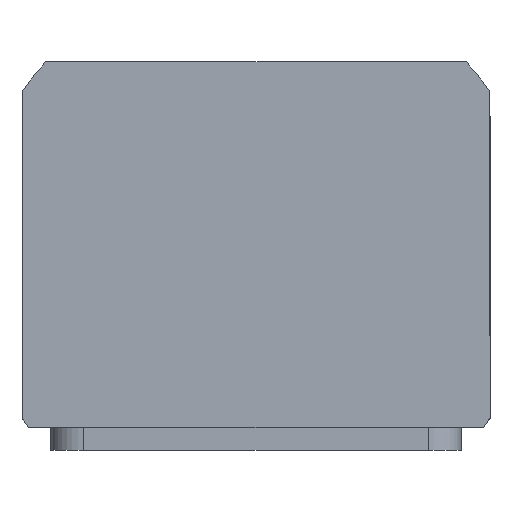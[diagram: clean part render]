
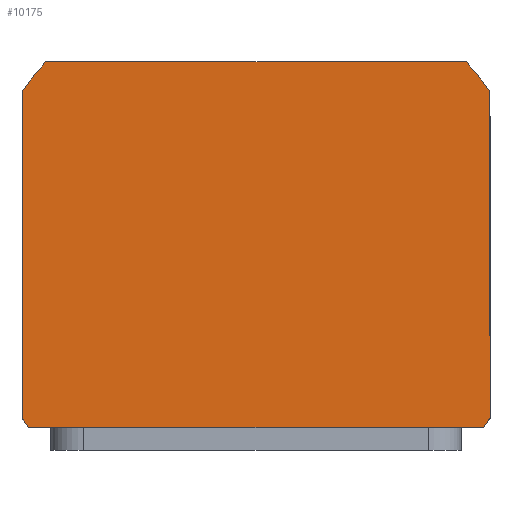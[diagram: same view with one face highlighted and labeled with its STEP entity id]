
A CAD part, top view. The second image highlights one B-rep face of the part: STEP entity #10175.
In plain terms, the highlighted planar face has unit normal (0, 0, 1) as drawn and (0, 0, -1) by its records, which use the part's own axes.
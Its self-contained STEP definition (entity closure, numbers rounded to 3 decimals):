
#501 = CIRCLE ( 'NONE', #10553, 69.5 ) ;
#770 = CIRCLE ( 'NONE', #3271, 69.5 ) ;
#986 = ORIENTED_EDGE ( 'NONE', *, *, #7964, .F. ) ;
#2131 = VECTOR ( 'NONE', #2492, 1000. ) ;
#2492 = DIRECTION ( 'NONE',  ( 1., 0., 0. ) ) ;
#2728 = CARTESIAN_POINT ( 'NONE',  ( 0., 2.508, 0. ) ) ;
#2950 = VECTOR ( 'NONE', #11099, 1000. ) ;
#3103 = VERTEX_POINT ( 'NONE', #3895 ) ;
#3154 = CARTESIAN_POINT ( 'NONE',  ( 0., 0., 0. ) ) ;
#3271 = AXIS2_PLACEMENT_3D ( 'NONE', #2728, #12559, #4146 ) ;
#3404 = CARTESIAN_POINT ( 'NONE',  ( 0., 2.508, 0. ) ) ;
#3663 = EDGE_CURVE ( 'NONE', #3103, #12084, #13330, .T. ) ;
#3895 = CARTESIAN_POINT ( 'NONE',  ( -51.19, -44.5, 0. ) ) ;
#4146 = DIRECTION ( 'NONE',  ( 1., 0., 0. ) ) ;
#4608 = EDGE_CURVE ( 'NONE', #13774, #7831, #5651, .T. ) ;
#4729 = ORIENTED_EDGE ( 'NONE', *, *, #4608, .F. ) ;
#4839 = DIRECTION ( 'NONE',  ( 1., 0., 0. ) ) ;
#5084 = AXIS2_PLACEMENT_3D ( 'NONE', #3404, #13234, #4839 ) ;
#5380 = DIRECTION ( 'NONE',  ( 0., -1., 0. ) ) ;
#5404 = DIRECTION ( 'NONE',  ( -1., 0., 0. ) ) ;
#5476 = EDGE_CURVE ( 'NONE', #7831, #16548, #770, .T. ) ;
#5651 = LINE ( 'NONE', #15176, #16430 ) ;
#5690 = CARTESIAN_POINT ( 'NONE',  ( 51.19, -44.5, 0. ) ) ;
#6025 = DIRECTION ( 'NONE',  ( 0., 0., 1. ) ) ;
#6068 = ORIENTED_EDGE ( 'NONE', *, *, #8471, .F. ) ;
#6149 = EDGE_CURVE ( 'NONE', #11795, #17946, #14164, .T. ) ;
#6680 = DIRECTION ( 'NONE',  ( 1., 0., 0. ) ) ;
#6947 = ORIENTED_EDGE ( 'NONE', *, *, #6149, .F. ) ;
#7580 = ORIENTED_EDGE ( 'NONE', *, *, #17487, .F. ) ;
#7706 = ORIENTED_EDGE ( 'NONE', *, *, #3663, .F. ) ;
#7831 = VERTEX_POINT ( 'NONE', #15652 ) ;
#7931 = CARTESIAN_POINT ( 'NONE',  ( 0., 2.508, 0. ) ) ;
#7964 = EDGE_CURVE ( 'NONE', #17946, #13774, #13483, .T. ) ;
#7982 = LINE ( 'NONE', #13781, #15459 ) ;
#8471 = EDGE_CURVE ( 'NONE', #16548, #10678, #7982, .T. ) ;
#9348 = DIRECTION ( 'NONE',  ( 1., 0., 0. ) ) ;
#9689 = CARTESIAN_POINT ( 'NONE',  ( 57., 44.5, 0. ) ) ;
#10175 = ADVANCED_FACE ( 'NONE', ( #14556 ), #12255, .F. ) ;
#10210 = EDGE_LOOP ( 'NONE', ( #986, #6947, #16093, #7706, #7580, #6068, #15376, #4729 ) ) ;
#10248 = AXIS2_PLACEMENT_3D ( 'NONE', #14408, #6025, #15835 ) ;
#10553 = AXIS2_PLACEMENT_3D ( 'NONE', #7931, #17778, #9348 ) ;
#10678 = VERTEX_POINT ( 'NONE', #12038 ) ;
#10843 = CARTESIAN_POINT ( 'NONE',  ( 57., -37.256, 0. ) ) ;
#11099 = DIRECTION ( 'NONE',  ( 0., 1., 0. ) ) ;
#11795 = VERTEX_POINT ( 'NONE', #10843 ) ;
#12038 = CARTESIAN_POINT ( 'NONE',  ( -57., -37.256, 0. ) ) ;
#12084 = VERTEX_POINT ( 'NONE', #5690 ) ;
#12255 = PLANE ( 'NONE',  #17026 ) ;
#12312 = CARTESIAN_POINT ( 'NONE',  ( 57., 42.273, 0. ) ) ;
#12559 = DIRECTION ( 'NONE',  ( 0., 0., 1. ) ) ;
#13234 = DIRECTION ( 'NONE',  ( 0., 0., 1. ) ) ;
#13330 = LINE ( 'NONE', #16528, #2131 ) ;
#13483 = CIRCLE ( 'NONE', #10248, 69.5 ) ;
#13774 = VERTEX_POINT ( 'NONE', #14187 ) ;
#13781 = CARTESIAN_POINT ( 'NONE',  ( -57., 44.5, 0. ) ) ;
#14164 = LINE ( 'NONE', #9689, #2950 ) ;
#14181 = EDGE_CURVE ( 'NONE', #12084, #11795, #501, .T. ) ;
#14187 = CARTESIAN_POINT ( 'NONE',  ( 55.38, 44.5, 0. ) ) ;
#14408 = CARTESIAN_POINT ( 'NONE',  ( 0., 2.508, 0. ) ) ;
#14556 = FACE_OUTER_BOUND ( 'NONE', #10210, .T. ) ;
#14565 = CIRCLE ( 'NONE', #5084, 69.5 ) ;
#14775 = CARTESIAN_POINT ( 'NONE',  ( -57., 42.273, 0. ) ) ;
#15090 = DIRECTION ( 'NONE',  ( 0., 0., 1. ) ) ;
#15176 = CARTESIAN_POINT ( 'NONE',  ( -57., 44.5, 0. ) ) ;
#15376 = ORIENTED_EDGE ( 'NONE', *, *, #5476, .F. ) ;
#15459 = VECTOR ( 'NONE', #5380, 1000. ) ;
#15652 = CARTESIAN_POINT ( 'NONE',  ( -55.38, 44.5, 0. ) ) ;
#15835 = DIRECTION ( 'NONE',  ( 1., 0., 0. ) ) ;
#16093 = ORIENTED_EDGE ( 'NONE', *, *, #14181, .F. ) ;
#16430 = VECTOR ( 'NONE', #5404, 1000. ) ;
#16528 = CARTESIAN_POINT ( 'NONE',  ( -57., -44.5, 0. ) ) ;
#16548 = VERTEX_POINT ( 'NONE', #14775 ) ;
#17026 = AXIS2_PLACEMENT_3D ( 'NONE', #3154, #15090, #6680 ) ;
#17487 = EDGE_CURVE ( 'NONE', #10678, #3103, #14565, .T. ) ;
#17778 = DIRECTION ( 'NONE',  ( 0., 0., 1. ) ) ;
#17946 = VERTEX_POINT ( 'NONE', #12312 ) ;
